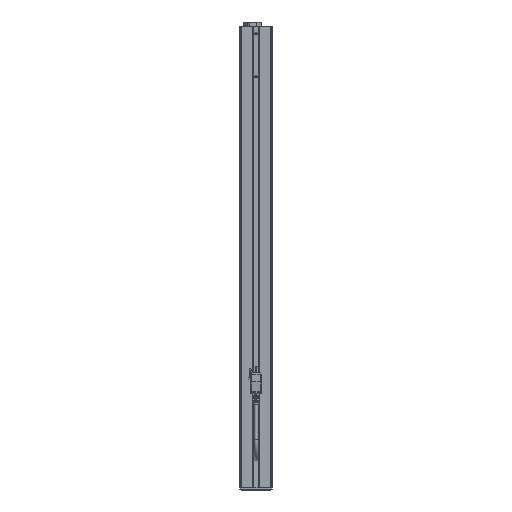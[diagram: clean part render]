
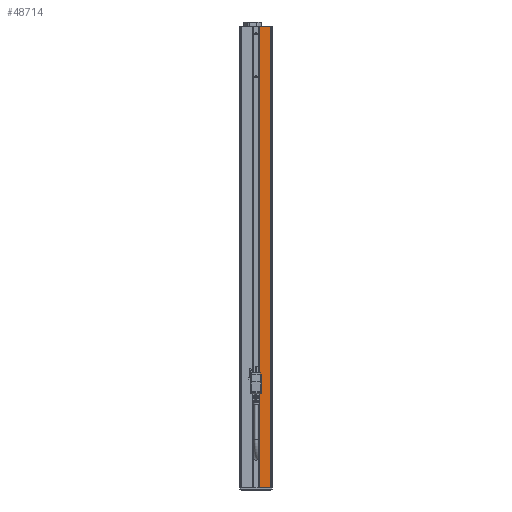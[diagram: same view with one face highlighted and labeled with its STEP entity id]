
A CAD part, top view. The second image highlights one B-rep face of the part: STEP entity #48714.
In plain terms, the highlighted planar face has unit normal (0, 0, 1) as drawn and (-1, 0, 0) by its records, which use the part's own axes.
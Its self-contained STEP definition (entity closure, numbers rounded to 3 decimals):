
#919=PLANE('',#55629);
#3071=LINE('',#72894,#7716);
#3838=LINE('',#76518,#8483);
#4389=LINE('',#78679,#9034);
#4390=LINE('',#78681,#9035);
#7716=VECTOR('',#58927,1000.);
#8483=VECTOR('',#61406,1000.);
#9034=VECTOR('',#63205,1000.);
#9035=VECTOR('',#63208,1000.);
#18403=ORIENTED_EDGE('',*,*,#29210,.F.);
#18404=ORIENTED_EDGE('',*,*,#31581,.F.);
#18405=ORIENTED_EDGE('',*,*,#30639,.T.);
#18406=ORIENTED_EDGE('',*,*,#31582,.T.);
#29210=EDGE_CURVE('',#36638,#36639,#3071,.T.);
#30639=EDGE_CURVE('',#37697,#37696,#3838,.T.);
#31581=EDGE_CURVE('',#37697,#36638,#4389,.T.);
#31582=EDGE_CURVE('',#37696,#36639,#4390,.T.);
#36638=VERTEX_POINT('',#72893);
#36639=VERTEX_POINT('',#72895);
#37696=VERTEX_POINT('',#76517);
#37697=VERTEX_POINT('',#76519);
#42950=EDGE_LOOP('',(#18403,#18404,#18405,#18406));
#45822=FACE_BOUND('',#42950,.T.);
#48714=ADVANCED_FACE('',(#45822),#919,.T.);
#55629=AXIS2_PLACEMENT_3D('',#78680,#63206,#63207);
#58927=DIRECTION('',(0.,0.,-1.));
#61406=DIRECTION('',(0.,0.,-1.));
#63205=DIRECTION('',(0.,-1.,0.));
#63206=DIRECTION('',(-1.,0.,0.));
#63207=DIRECTION('',(0.,0.,1.));
#63208=DIRECTION('',(0.,-1.,0.));
#72893=CARTESIAN_POINT('',(-45.,0.,42.876));
#72894=CARTESIAN_POINT('',(-45.,0.,26.7));
#72895=CARTESIAN_POINT('',(-45.,0.,26.7));
#76517=CARTESIAN_POINT('',(-45.,631.,26.7));
#76518=CARTESIAN_POINT('',(-45.,631.,26.7));
#76519=CARTESIAN_POINT('',(-45.,631.,42.876));
#78679=CARTESIAN_POINT('',(-45.,631.,42.876));
#78680=CARTESIAN_POINT('',(-45.,631.,26.7));
#78681=CARTESIAN_POINT('',(-45.,631.,26.7));
